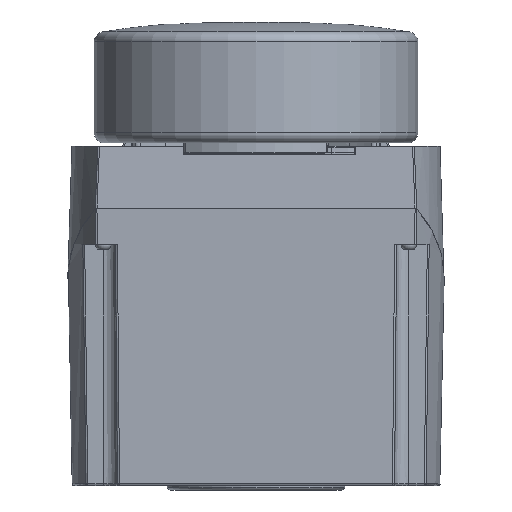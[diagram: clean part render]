
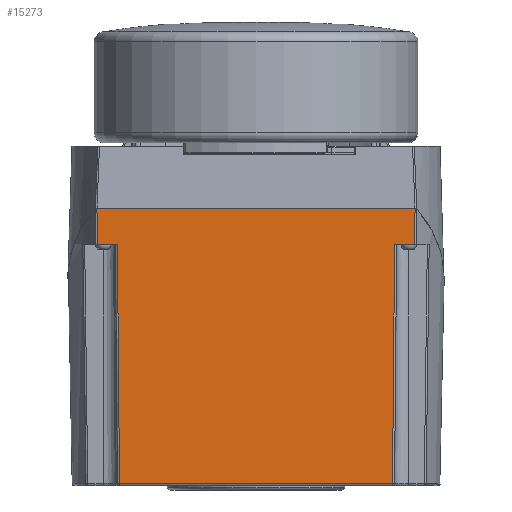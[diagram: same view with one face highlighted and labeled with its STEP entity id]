
A CAD part, front view. The second image highlights one B-rep face of the part: STEP entity #15273.
In plain terms, the highlighted planar face has unit normal (0, -1, -0.012).
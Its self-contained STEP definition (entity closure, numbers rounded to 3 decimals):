
#26 = CARTESIAN_POINT ( 'NONE',  ( 78.494, -48.493, -37.714 ) ) ;
#1545 = ORIENTED_EDGE ( 'NONE', *, *, #16324, .T. ) ;
#2662 = ORIENTED_EDGE ( 'NONE', *, *, #18844, .F. ) ;
#3430 = VERTEX_POINT ( 'NONE', #20953 ) ;
#4756 = LINE ( 'NONE', #27006, #41289 ) ;
#5506 = CARTESIAN_POINT ( 'NONE',  ( 78.603, -48.636, -25.753 ) ) ;
#5941 = B_SPLINE_CURVE_WITH_KNOTS ( 'NONE', 3,
 ( #22094, #22252, #26, #22081, #22030, #21991, #21944 ),
 .UNSPECIFIED., .F., .F.,
 ( 4, 3, 4 ),
 ( 0., 0.009, 0.018 ),
 .UNSPECIFIED. ) ;
#8337 = DIRECTION ( 'NONE',  ( 0.009, -0.012, 1. ) ) ;
#9055 = ORIENTED_EDGE ( 'NONE', *, *, #18589, .F. ) ;
#10928 = LINE ( 'NONE', #12456, #29768 ) ;
#11245 = VERTEX_POINT ( 'NONE', #25775 ) ;
#12456 = CARTESIAN_POINT ( 'NONE',  ( 68.5, -48.422, -43.691 ) ) ;
#12737 = CARTESIAN_POINT ( 'NONE',  ( -78.603, -48.636, -25.753 ) ) ;
#13221 = CARTESIAN_POINT ( 'NONE',  ( 67.47, -47.012, -161.712 ) ) ;
#13770 = ORIENTED_EDGE ( 'NONE', *, *, #18723, .T. ) ;
#14335 = VERTEX_POINT ( 'NONE', #25879 ) ;
#15273 = ADVANCED_FACE ( 'NONE', ( #24106 ), #26865, .T. ) ;
#15419 = B_SPLINE_CURVE_WITH_KNOTS ( 'NONE', 3,
 ( #22988, #22791, #22308, #22299, #22146, #22134, #21981 ),
 .UNSPECIFIED., .F., .F.,
 ( 4, 3, 4 ),
 ( 0., 0.009, 0.018 ),
 .UNSPECIFIED. ) ;
#16324 = EDGE_CURVE ( 'NONE', #35371, #14335, #15419, .T. ) ;
#16511 = EDGE_CURVE ( 'NONE', #42695, #11245, #10928, .T. ) ;
#17550 = EDGE_CURVE ( 'NONE', #3430, #42695, #41588, .T. ) ;
#17658 = LINE ( 'NONE', #23368, #25975 ) ;
#17782 = CARTESIAN_POINT ( 'NONE',  ( -93.073, -48.636, -25.753 ) ) ;
#18302 = DIRECTION ( 'NONE',  ( 1., 0., 0. ) ) ;
#18585 = EDGE_CURVE ( 'NONE', #30075, #3430, #23807, .T. ) ;
#18589 = EDGE_CURVE ( 'NONE', #30075, #14335, #4756, .T. ) ;
#18717 = EDGE_CURVE ( 'NONE', #38836, #11245, #17658, .T. ) ;
#18723 = EDGE_CURVE ( 'NONE', #38836, #36082, #5941, .T. ) ;
#18844 = EDGE_CURVE ( 'NONE', #35371, #36082, #27020, .T. ) ;
#20953 = CARTESIAN_POINT ( 'NONE',  ( -67.47, -47.012, -161.712 ) ) ;
#21308 = DIRECTION ( 'NONE',  ( 1., 0., 0. ) ) ;
#21458 = CARTESIAN_POINT ( 'NONE',  ( 68.462, -47.012, -161.712 ) ) ;
#21944 = CARTESIAN_POINT ( 'NONE',  ( 78.603, -48.636, -25.753 ) ) ;
#21981 = CARTESIAN_POINT ( 'NONE',  ( -78.44, -48.421, -43.7 ) ) ;
#21991 = CARTESIAN_POINT ( 'NONE',  ( 78.576, -48.6, -28.742 ) ) ;
#22030 = CARTESIAN_POINT ( 'NONE',  ( 78.549, -48.565, -31.732 ) ) ;
#22081 = CARTESIAN_POINT ( 'NONE',  ( 78.522, -48.529, -34.721 ) ) ;
#22094 = CARTESIAN_POINT ( 'NONE',  ( 78.44, -48.422, -43.7 ) ) ;
#22134 = CARTESIAN_POINT ( 'NONE',  ( -78.467, -48.457, -40.707 ) ) ;
#22146 = CARTESIAN_POINT ( 'NONE',  ( -78.494, -48.493, -37.714 ) ) ;
#22252 = CARTESIAN_POINT ( 'NONE',  ( 78.467, -48.457, -40.707 ) ) ;
#22299 = CARTESIAN_POINT ( 'NONE',  ( -78.522, -48.529, -34.721 ) ) ;
#22308 = CARTESIAN_POINT ( 'NONE',  ( -78.549, -48.564, -31.732 ) ) ;
#22791 = CARTESIAN_POINT ( 'NONE',  ( -78.576, -48.6, -28.742 ) ) ;
#22988 = CARTESIAN_POINT ( 'NONE',  ( -78.603, -48.636, -25.753 ) ) ;
#23158 = DIRECTION ( 'NONE',  ( -1., 0., 0. ) ) ;
#23368 = CARTESIAN_POINT ( 'NONE',  ( 79.158, -48.422, -43.7 ) ) ;
#23807 = LINE ( 'NONE', #27237, #32012 ) ;
#24106 = FACE_OUTER_BOUND ( 'NONE', #25227, .T. ) ;
#25188 = AXIS2_PLACEMENT_3D ( 'NONE', #26077, #26026, #25878 ) ;
#25227 = EDGE_LOOP ( 'NONE', ( #9055, #34865, #27861, #39652, #31598, #13770, #2662, #1545 ) ) ;
#25775 = CARTESIAN_POINT ( 'NONE',  ( 68.5, -48.422, -43.7 ) ) ;
#25878 = DIRECTION ( 'NONE',  ( -1., 0., 0. ) ) ;
#25879 = CARTESIAN_POINT ( 'NONE',  ( -78.44, -48.421, -43.7 ) ) ;
#25975 = VECTOR ( 'NONE', #23158, 1000. ) ;
#26026 = DIRECTION ( 'NONE',  ( 0., -1., -0.012 ) ) ;
#26077 = CARTESIAN_POINT ( 'NONE',  ( 79.158, -48.638, -25.553 ) ) ;
#26865 = PLANE ( 'NONE',  #25188 ) ;
#26936 = DIRECTION ( 'NONE',  ( -1., 0., 0. ) ) ;
#27006 = CARTESIAN_POINT ( 'NONE',  ( 79.158, -48.422, -43.7 ) ) ;
#27020 = LINE ( 'NONE', #17782, #45474 ) ;
#27184 = CARTESIAN_POINT ( 'NONE',  ( -68.5, -48.421, -43.7 ) ) ;
#27237 = CARTESIAN_POINT ( 'NONE',  ( -68.647, -48.623, -26.843 ) ) ;
#27861 = ORIENTED_EDGE ( 'NONE', *, *, #17550, .T. ) ;
#28087 = DIRECTION ( 'NONE',  ( 0.009, 0.012, -1. ) ) ;
#29768 = VECTOR ( 'NONE', #8337, 1000. ) ;
#30075 = VERTEX_POINT ( 'NONE', #27184 ) ;
#31598 = ORIENTED_EDGE ( 'NONE', *, *, #18717, .F. ) ;
#31669 = CARTESIAN_POINT ( 'NONE',  ( 78.44, -48.422, -43.7 ) ) ;
#32012 = VECTOR ( 'NONE', #28087, 1000. ) ;
#32316 = VECTOR ( 'NONE', #21308, 1000. ) ;
#34865 = ORIENTED_EDGE ( 'NONE', *, *, #18585, .T. ) ;
#35371 = VERTEX_POINT ( 'NONE', #12737 ) ;
#36082 = VERTEX_POINT ( 'NONE', #5506 ) ;
#38836 = VERTEX_POINT ( 'NONE', #31669 ) ;
#39652 = ORIENTED_EDGE ( 'NONE', *, *, #16511, .T. ) ;
#41289 = VECTOR ( 'NONE', #26936, 1000. ) ;
#41588 = LINE ( 'NONE', #21458, #32316 ) ;
#42695 = VERTEX_POINT ( 'NONE', #13221 ) ;
#45474 = VECTOR ( 'NONE', #18302, 1000. ) ;
